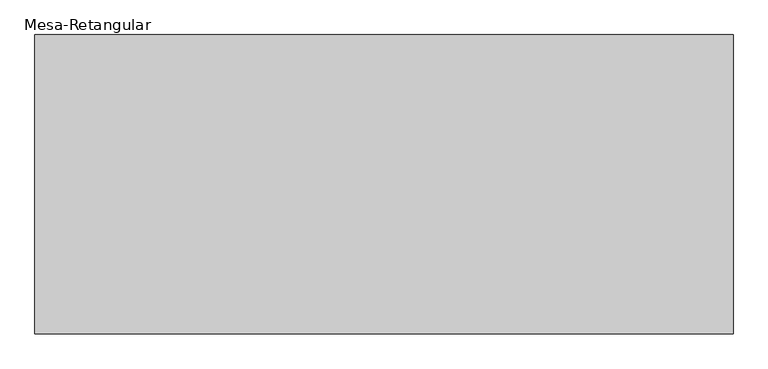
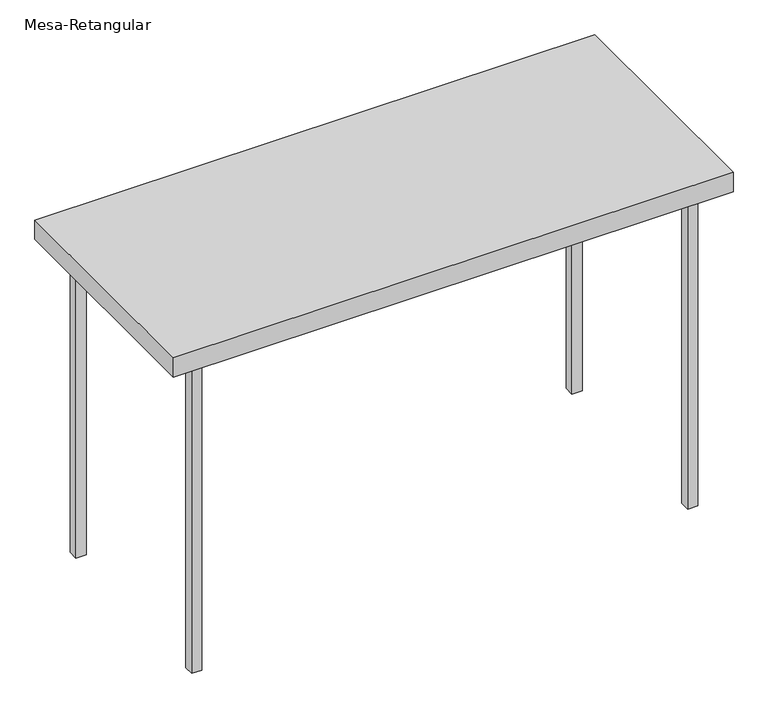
"""IFC4 building model written with IfcOpenShell, lengths in millimetres: furniture geometry, Mesa-Retangular : Mesa aço inox 160x60cm 88AL 2."""

import ifcopenshell
import ifcopenshell.guid

model = None  # the IFC model being written
_history = None  # IfcOwnerHistory: only IFC2X3 demands one
_inside = {}  # id of a spatial element -> (the spatial element, [elements in it])
_under = {}  # id of a project, library or spatial element -> (it, [spatial elements below it])
_declared = {}  # id of a project -> (the project, [libraries it declares])
_typed = {}  # id of a type object -> (the type object, [elements of that type])
_made_of = {}  # id of a material, layer set ... -> (it, [elements and type objects made of it])


def new_model(schema):
    """Start an empty IFC model of exactly this schema.

    Asked for "IFC4X3", IfcOpenShell would pick the latest addendum, in which some entities
    have other attributes; the version numbers below select the first issue.
    IFC2X3 requires an IfcOwnerHistory on every rooted entity: one is made here for all.
    """
    global model, _history
    if schema == "IFC4X3":
        model = ifcopenshell.file(schema_version=(4, 3, 0, 0))
    else:
        model = ifcopenshell.file(schema=schema)
    _inside.clear()
    _under.clear()
    _declared.clear()
    _typed.clear()
    _made_of.clear()
    _history = None
    if model.schema == "IFC2X3":
        org = make("IfcOrganization", Name="unknown")
        user = make(
            "IfcPersonAndOrganization",
            ThePerson=make("IfcPerson", FamilyName="unknown"),
            TheOrganization=org,
        )
        app = make(
            "IfcApplication",
            ApplicationDeveloper=org,
            Version="unknown",
            ApplicationFullName="unknown",
            ApplicationIdentifier="unknown",
        )
        _history = make(
            "IfcOwnerHistory",
            OwningUser=user,
            OwningApplication=app,
            ChangeAction="ADDED",
            CreationDate=0,
        )
    return model


def make(cls, **values):
    """One entity of the class cls with the attributes given. An attribute that is None is left unset."""
    return model.create_entity(
        cls, **{name: value for name, value in values.items() if value is not None}
    )


def rooted(cls, **values):
    """An entity with a GlobalId (a new one), such as an element, a storey or a relation."""
    return make(cls, GlobalId=ifcopenshell.guid.new(), OwnerHistory=_history, **values)


def si_unit(unit_type, name, prefix=None):
    """IfcSIUnit, for example si_unit("LENGTHUNIT", "METRE", prefix="MILLI")."""
    return make("IfcSIUnit", UnitType=unit_type, Prefix=prefix, Name=name)


def assignment(units):
    """IfcUnitAssignment: the units of a project."""
    return None if units is None else make("IfcUnitAssignment", Units=units)


def point(xyz):
    """IfcCartesianPoint."""
    return None if xyz is None else make("IfcCartesianPoint", Coordinates=xyz)


def direction(xyz):
    """IfcDirection."""
    return None if xyz is None else make("IfcDirection", DirectionRatios=xyz)


def frame(location, z_axis=None, x_axis=None):
    """IfcAxis2Placement3D, a coordinate frame: its origin and axes. An axis left out is left unset."""
    return make(
        "IfcAxis2Placement3D",
        Location=point(location),
        Axis=direction(z_axis),
        RefDirection=direction(x_axis),
    )


def origin():
    """The frame at (0, 0, 0) with its axes left unset."""
    return frame((0.0, 0.0, 0.0))


def origin_with_axes():
    """The frame at (0, 0, 0) with the z axis (0, 0, 1) and the x axis (1, 0, 0) written out."""
    return frame((0.0, 0.0, 0.0), z_axis=(0.0, 0.0, 1.0), x_axis=(1.0, 0.0, 0.0))


def place(relative_to, where):
    """IfcLocalPlacement: puts the frame where relative to a parent placement (None: the world)."""
    return make(
        "IfcLocalPlacement", PlacementRelTo=relative_to, RelativePlacement=where
    )


def context(
    kind, dimensions, precision=None, world=None, true_north=None, identifier=None
):
    """IfcGeometricRepresentationContext, for example the 3D "Model" context."""
    return make(
        "IfcGeometricRepresentationContext",
        ContextIdentifier=identifier,
        ContextType=kind,
        CoordinateSpaceDimension=dimensions,
        Precision=precision,
        WorldCoordinateSystem=world,
        TrueNorth=true_north,
    )


def project(units=None, contexts=None):
    """IfcProject with its units and contexts."""
    return rooted(
        "IfcProject",
        Name="project",
        RepresentationContexts=contexts,
        UnitsInContext=assignment(units),
    )


def spatial(cls, under=None, at=None, **own):
    """A site, building, storey or space (cls), placed at a placement, below another one or the project."""
    s = rooted(cls, ObjectPlacement=at, **own)
    if under is not None:
        _under.setdefault(under.id(), (under, []))[1].append(s)
    return s


def polyline(points):
    """IfcPolyline through the points."""
    return make("IfcPolyline", Points=[point(p) for p in points])


def outline(outer, holes=None, kind="AREA"):
    """IfcArbitraryClosedProfileDef: a profile drawn as a closed curve; with holes, ...WithVoids."""
    if holes is None:
        return make("IfcArbitraryClosedProfileDef", ProfileType=kind, OuterCurve=outer)
    return make(
        "IfcArbitraryProfileDefWithVoids",
        ProfileType=kind,
        OuterCurve=outer,
        InnerCurves=holes,
    )


def extrude(swept, where, along, depth):
    """IfcExtrudedAreaSolid: the profile swept, set in the frame where, extruded along a direction by depth."""
    return make(
        "IfcExtrudedAreaSolid",
        SweptArea=swept,
        Position=where,
        ExtrudedDirection=direction(along),
        Depth=depth,
    )


def shape(context_of_items, identifier, shape_type, items):
    """IfcShapeRepresentation: the items that make up one representation, for example the "Body"."""
    return make(
        "IfcShapeRepresentation",
        ContextOfItems=context_of_items,
        RepresentationIdentifier=identifier,
        RepresentationType=shape_type,
        Items=items,
    )


def source(mapping_origin, context_of_items, identifier, shape_type, items):
    """IfcRepresentationMap: a shape defined once, which mapped items show again and again."""
    return make(
        "IfcRepresentationMap",
        MappingOrigin=mapping_origin,
        MappedRepresentation=shape(context_of_items, identifier, shape_type, items),
    )


def transform(
    local_origin,
    x_axis=None,
    y_axis=None,
    z_axis=None,
    scale=None,
    scale2=None,
    scale3=None,
    uniform=True,
):
    """IfcCartesianTransformationOperator3D, or its non-uniform kind. x_axis, y_axis, z_axis: its Axis1, 2, 3."""
    if uniform:
        return make(
            "IfcCartesianTransformationOperator3D",
            Axis1=direction(x_axis),
            Axis2=direction(y_axis),
            LocalOrigin=point(local_origin),
            Scale=scale,
            Axis3=direction(z_axis),
        )
    return make(
        "IfcCartesianTransformationOperator3DnonUniform",
        Axis1=direction(x_axis),
        Axis2=direction(y_axis),
        LocalOrigin=point(local_origin),
        Scale=scale,
        Axis3=direction(z_axis),
        Scale2=scale2,
        Scale3=scale3,
    )


def mapped(mapping_source, mapping_target):
    """IfcMappedItem: shows the shape of a source again, moved by a transform."""
    return make(
        "IfcMappedItem", MappingSource=mapping_source, MappingTarget=mapping_target
    )


def made_of(thing, what):
    """Note that an element or type object is made of a material, layer set ...; save() writes the relation."""
    if what is not None:
        _made_of.setdefault(what.id(), (what, []))[1].append(thing)
    return thing


def element(
    cls,
    number,
    at=None,
    inside=None,
    cuts=None,
    type_object=None,
    material=None,
    context=None,
    identifier="Body",
    shape_type=None,
    held_by="IfcProductDefinitionShape",
    body=None,
    shapes=None,
    **own,
):
    """One element of the class cls, such as IfcWall. Its Tag is "e" and its number.

    at: its placement. inside: the storey or other place that contains it. cuts: it is an
    opening in that element (IfcRelVoidsElement). A single representation is given by context,
    identifier, shape_type and body (its items); several are given by shapes. held_by: the class
    of the entity that holds the representations. save() writes the other relations.
    """
    e = rooted(cls, Tag="e%d" % number, ObjectPlacement=at, **own)
    if body is not None:
        shapes = [shape(context, identifier, shape_type, body)]
    if shapes is not None:
        e.Representation = make(held_by, Representations=shapes)
    if inside is not None:
        _inside.setdefault(inside.id(), (inside, []))[1].append(e)
    if cuts is not None:
        rooted(
            "IfcRelVoidsElement", RelatingBuildingElement=cuts, RelatedOpeningElement=e
        )
    if type_object is not None:
        _typed.setdefault(type_object.id(), (type_object, []))[1].append(e)
    return made_of(e, material)


def aggregate(whole, parts):
    """IfcRelAggregates: a whole, such as a stair, and the parts it consists of."""
    return rooted("IfcRelAggregates", RelatingObject=whole, RelatedObjects=parts)


def save(model, path):
    """Write the relations noted so far, then the file.

    IfcRelAggregates (storeys below a building ...), IfcRelContainedInSpatialStructure (elements
    in a storey), IfcRelDefinesByType, IfcRelAssociatesMaterial and IfcRelDeclares: one each for
    every whole, place, type object, material and project.
    """
    for whole, parts in _under.values():
        aggregate(whole, parts)
    for where, things in _inside.values():
        rooted(
            "IfcRelContainedInSpatialStructure",
            RelatedElements=things,
            RelatingStructure=where,
        )
    for kind, things in _typed.values():
        rooted("IfcRelDefinesByType", RelatedObjects=things, RelatingType=kind)
    for what, things in _made_of.values():
        rooted("IfcRelAssociatesMaterial", RelatedObjects=things, RelatingMaterial=what)
    for by, libraries in _declared.values():
        rooted("IfcRelDeclares", RelatingContext=by, RelatedDefinitions=libraries)
    model.write(path)


def mesa_retangular_d632e1d2(model_context):
    return source(origin(), model_context, "Body", "SweptSolid", [
        extrude(outline(polyline([(-632.8946305, 238.2145104), (-632.8946305, 263.6145104), (-607.4946305, 263.6145104), (-607.4946305, 238.2145104), (-632.8946305, 238.2145104)])), origin_with_axes(), (0.0, 0.0, 1.0), 829.2),
        extrude(outline(polyline([(-632.8946305, -238.2145104), (-607.4946305, -238.2145104), (-607.4946305, -263.6145104), (-632.8946305, -263.6145104), (-632.8946305, -238.2145104)])), origin_with_axes(), (0.0, 0.0, 1.0), 829.2),
        extrude(outline(polyline([(632.8946305, 238.2145104), (607.4946305, 238.2145104), (607.4946305, 263.6145104), (632.8946305, 263.6145104), (632.8946305, 238.2145104)])), origin_with_axes(), (0.0, 0.0, 1.0), 829.2),
        extrude(outline(polyline([(632.8946305, -238.2145104), (632.8946305, -263.6145104), (607.4946305, -263.6145104), (607.4946305, -238.2145104), (632.8946305, -238.2145104)])), origin_with_axes(), (0.0, 0.0, 1.0), 829.2),
        extrude(outline(polyline([(700.0, 300.0), (700.0, -300.0), (-700.0, -300.0), (-700.0, 300.0), (700.0, 300.0)])), frame((0.0, 0.0, 829.2), z_axis=(0.0, 0.0, 1.0), x_axis=(1.0, 0.0, 0.0)), (0.0, 0.0, 1.0), 50.8),
    ])


if __name__ == "__main__":
    model = new_model("IFC4")
    model_context = context("Model", 3, world=origin())
    ifc_project = project(units=[si_unit("LENGTHUNIT", "METRE", prefix="MILLI")], contexts=[model_context])
    site = spatial("IfcSite", under=ifc_project)
    building = spatial("IfcBuilding", under=site)
    placement = place(None, origin())
    mesa_retangular_shape = mesa_retangular_d632e1d2(model_context)
    element("IfcFurniture", 1, ObjectType="Mesa-Retangular : Mesa aço inox 160x60cm 88AL 2", at=placement, inside=building, context=model_context, shape_type="MappedRepresentation", body=[
        mapped(mesa_retangular_shape, transform((0.0, 0.0, 0.0), x_axis=(1.0, 0.0, 0.0), y_axis=(0.0, 1.0, 0.0), z_axis=(0.0, 0.0, 1.0))),
    ])
    save(model, "model.ifc")
